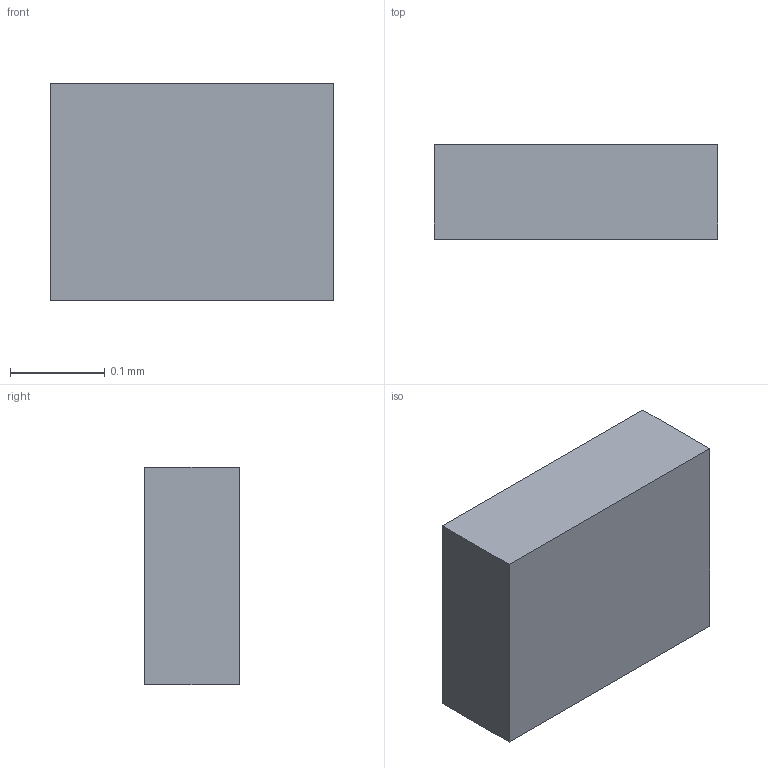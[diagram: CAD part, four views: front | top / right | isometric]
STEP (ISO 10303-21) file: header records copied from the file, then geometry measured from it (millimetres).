
FILE_DESCRIPTION(/* description */ ('STEP AP242 Edition 2','CAx-IF Rec.Pracs.---Representation and Presentation of Product Manufacturing Information (PMI)---4.0---2014-10-13','CAx-IF Rec.Pracs.---3D Tessellated Geometry---0.4---2014-09-14','2;1','CAx-IF Rec.Pracs.---User Defined Attributes---1.5---2016-08-15'),/* implementation_level */ '2;1');
FILE_NAME(/* name */ 'HIRO_Assembly - SMD Resistor, Configurable, Raspberry Pi Pico-R3_R12 (2)',/* time_stamp */ '2026-11-04T05:23:29Z',/* author */ (''),/* organization */ (''),/* preprocessor_version */ 'ST-DEVELOPER v20',/* originating_system */ 'ONSHAPE BY PTC INC, 1.223',/* authorisation */ ' ');
FILE_SCHEMA (('AP242_MANAGED_MODEL_BASED_3D_ENGINEERING_MIM_LF { 1 0 10303 442 3 1 4 }'));
Length unit declared in the file: metre
Products named in the file (1): SMD Resistor, Configurable, Raspberry Pi Pico-R3_R12
Bounding box: 0.3 x 0.1 x 0.23 mm (x, y, z)
Volume: 0 mm3; surface area: 0.2 mm2
Topology: 1 solids, 1 shells, 6 faces, 12 edges, 8 vertices
Faces by surface type: plane 6
Entity records: 178 total; most frequent: CARTESIAN_POINT 27, DIRECTION 26, ORIENTED_EDGE 24, EDGE_CURVE 12, LINE 12, VECTOR 12, VERTEX_POINT 8, AXIS2_PLACEMENT_3D 7
